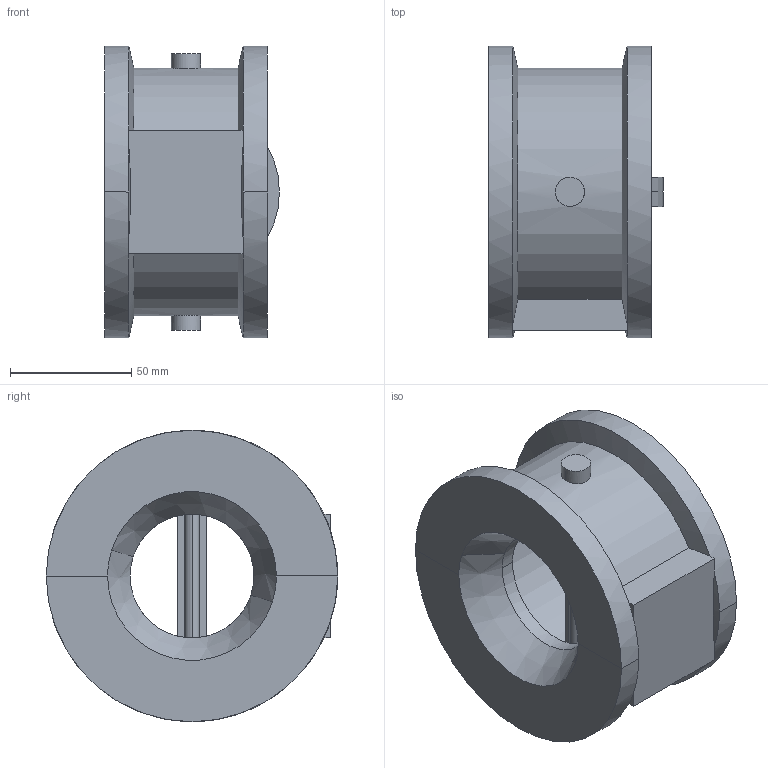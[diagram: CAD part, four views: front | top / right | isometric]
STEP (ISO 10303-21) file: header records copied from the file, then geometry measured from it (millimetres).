
FILE_DESCRIPTION (( 'STEP AP203' ), '1' );
FILE_NAME ('Viega_MegaPressFKM_WaferCheckValve_5974XL-3DView-{3D}.STEP', '2025-02-18T14:39:30', ( '' ), ( '' ), 'SwSTEP 2.0', 'SolidWorks 2020', '' );
FILE_SCHEMA (( 'CONFIG_CONTROL_DESIGN' ));
Length unit declared in the file: millimetre
Products named in the file (1): Viega_MegaPressFKM_WaferCheckValve_5974XL-3DView-{3D}
Bounding box: 72 x 120 x 120 mm (x, y, z)
Volume: 371464.6 mm3; surface area: 75162.1 mm2
Topology: 4 solids, 4 shells, 50 faces, 108 edges, 66 vertices
Faces by surface type: plane 23, cylinder 19, cone 8
Entity records: 1695 total; most frequent: CARTESIAN_POINT 519, DIRECTION 248, ORIENTED_EDGE 216, EDGE_CURVE 108, AXIS2_PLACEMENT_3D 101, VERTEX_POINT 66, EDGE_LOOP 52, FACE_OUTER_BOUND 50
